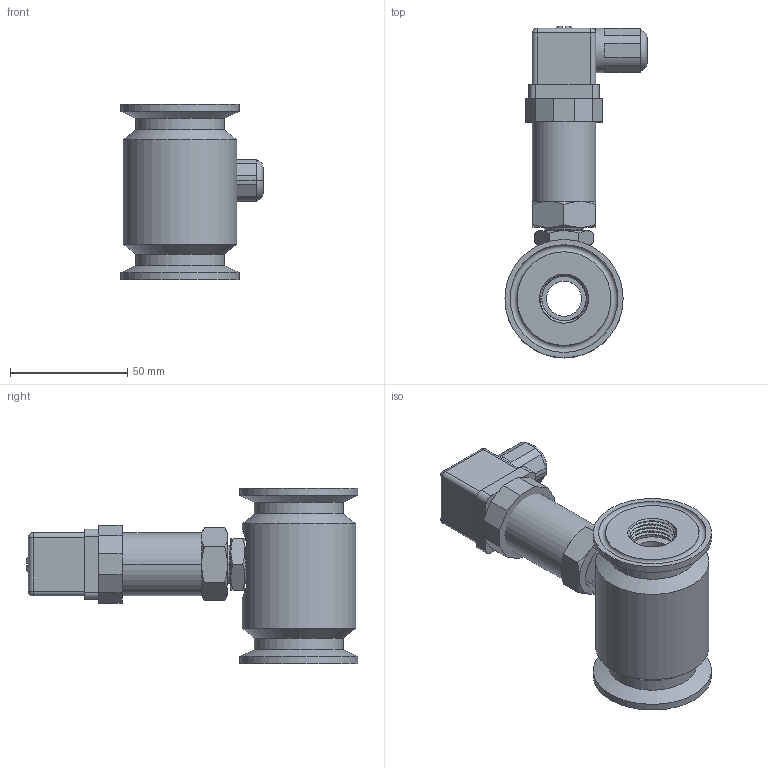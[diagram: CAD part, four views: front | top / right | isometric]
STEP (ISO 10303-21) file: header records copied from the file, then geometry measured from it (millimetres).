
FILE_DESCRIPTION( (''), '2;1');
FILE_NAME( 'QTKB_DN15_tri-clamp.step', '2023-11-09T16:58:04+08:00', (''), (''), '', '', '');
FILE_SCHEMA (('AUTOMOTIVE_DESIGN { 1 0 10303 214 3 1 1 1 }'));
Length unit declared in the file: millimetre
Products named in the file (1): QTKB DN15_tri-clamp
Bounding box: 60.73 x 141.75 x 75 mm (x, y, z)
Volume: 175417.4 mm3; surface area: 42067.2 mm2
Topology: 5 solids, 6 shells, 391 faces, 1028 edges, 672 vertices
Faces by surface type: plane 247, cylinder 62, cone 46, bspline 26, torus 6, sphere 4
Full cylindrical faces by diameter (mm): 15 x1, 17 x1, 22 x2, 38 x2, 48.5 x1, 50.5 x2
Entity records: 21515 total; most frequent: CARTESIAN_POINT 12187, ORIENTED_EDGE 1990, DIRECTION 1753, EDGE_CURVE 995, VERTEX_POINT 661, LINE 625, VECTOR 625, AXIS2_PLACEMENT_3D 564
